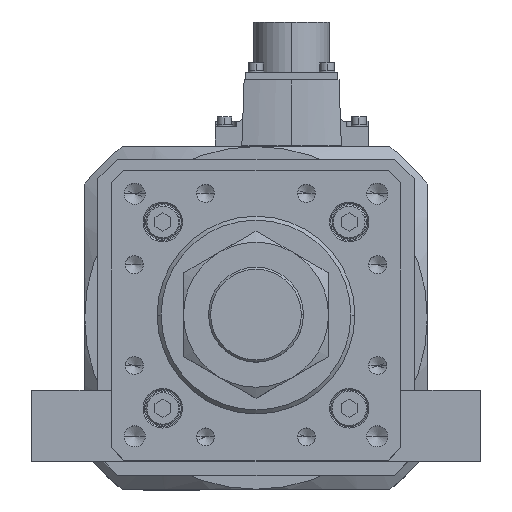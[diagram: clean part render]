
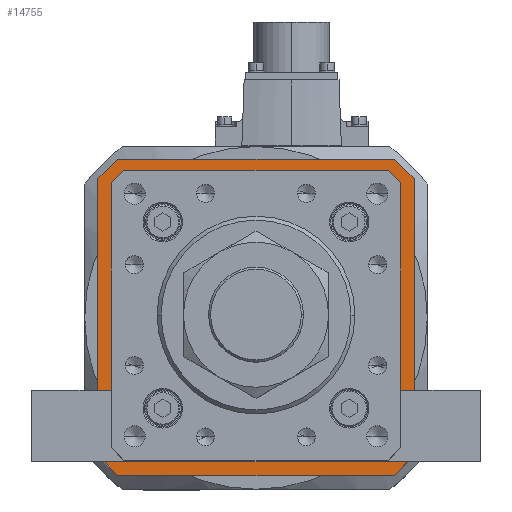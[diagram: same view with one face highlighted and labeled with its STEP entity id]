
A CAD part, top view. The second image highlights one B-rep face of the part: STEP entity #14755.
In plain terms, the highlighted planar face has unit normal (0, 0, 1).
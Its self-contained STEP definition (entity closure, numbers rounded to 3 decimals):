
#123 = EDGE_LOOP ( 'NONE', ( #26658, #15850, #24649, #28384, #15720, #22856, #2723, #34719 ) ) ;
#509 = LINE ( 'NONE', #13202, #11135 ) ;
#651 = FACE_OUTER_BOUND ( 'NONE', #123, .T. ) ;
#836 = VECTOR ( 'NONE', #4839, 1000. ) ;
#1059 = DIRECTION ( 'NONE',  ( 1., 0., 0. ) ) ;
#1314 = ORIENTED_EDGE ( 'NONE', *, *, #14884, .T. ) ;
#1342 = VECTOR ( 'NONE', #1059, 1000. ) ;
#1679 = CARTESIAN_POINT ( 'NONE',  ( -49.593, -53.5, -119. ) ) ;
#2389 = ORIENTED_EDGE ( 'NONE', *, *, #34062, .T. ) ;
#2723 = ORIENTED_EDGE ( 'NONE', *, *, #32309, .F. ) ;
#3587 = LINE ( 'NONE', #25033, #9563 ) ;
#3638 = VERTEX_POINT ( 'NONE', #21439 ) ;
#3651 = CARTESIAN_POINT ( 'NONE',  ( -53.5, 49.8, -119. ) ) ;
#3724 = VERTEX_POINT ( 'NONE', #15979 ) ;
#3873 = LINE ( 'NONE', #24553, #32558 ) ;
#4298 = CARTESIAN_POINT ( 'NONE',  ( -60., -52.5, -119. ) ) ;
#4336 = DIRECTION ( 'NONE',  ( 0.707, 0.707, 0. ) ) ;
#4839 = DIRECTION ( 'NONE',  ( 0.707, 0.707, 0. ) ) ;
#5247 = DIRECTION ( 'NONE',  ( 0., 0., 1. ) ) ;
#5585 = VECTOR ( 'NONE', #16885, 1000. ) ;
#5635 = CARTESIAN_POINT ( 'NONE',  ( 49.8, 53.5, -119. ) ) ;
#5797 = CARTESIAN_POINT ( 'NONE',  ( 60., 52.5, -119. ) ) ;
#6327 = VECTOR ( 'NONE', #6361, 1000. ) ;
#6361 = DIRECTION ( 'NONE',  ( 0., 1., 0. ) ) ;
#6394 = DIRECTION ( 'NONE',  ( 1., 0., 0. ) ) ;
#6497 = AXIS2_PLACEMENT_3D ( 'NONE', #32021, #5247, #17236 ) ;
#6675 = EDGE_CURVE ( 'NONE', #13339, #33547, #3587, .T. ) ;
#6880 = ORIENTED_EDGE ( 'NONE', *, *, #16070, .T. ) ;
#6944 = VERTEX_POINT ( 'NONE', #24484 ) ;
#6952 = EDGE_CURVE ( 'NONE', #17016, #11686, #15120, .T. ) ;
#6958 = DIRECTION ( 'NONE',  ( -1., 0., 0. ) ) ;
#7276 = CARTESIAN_POINT ( 'NONE',  ( -49.446, 53.646, -119. ) ) ;
#7765 = VECTOR ( 'NONE', #25791, 1000. ) ;
#8041 = LINE ( 'NONE', #26074, #27484 ) ;
#8065 = CARTESIAN_POINT ( 'NONE',  ( -60., 52.5, -119. ) ) ;
#8460 = FACE_BOUND ( 'NONE', #33612, .T. ) ;
#8485 = EDGE_CURVE ( 'NONE', #3638, #30688, #8041, .T. ) ;
#8662 = LINE ( 'NONE', #7276, #836 ) ;
#8741 = CARTESIAN_POINT ( 'NONE',  ( 49.593, -53.5, -119. ) ) ;
#8853 = DIRECTION ( 'NONE',  ( 0., -1., 0. ) ) ;
#9304 = LINE ( 'NONE', #19926, #28295 ) ;
#9520 = VECTOR ( 'NONE', #6958, 1000. ) ;
#9563 = VECTOR ( 'NONE', #4336, 1000. ) ;
#9617 = LINE ( 'NONE', #22785, #7765 ) ;
#10036 = LINE ( 'NONE', #14808, #37368 ) ;
#11135 = VECTOR ( 'NONE', #22272, 1000. ) ;
#11686 = VERTEX_POINT ( 'NONE', #24833 ) ;
#12745 = EDGE_CURVE ( 'NONE', #18184, #20924, #9617, .T. ) ;
#13093 = VERTEX_POINT ( 'NONE', #18868 ) ;
#13202 = CARTESIAN_POINT ( 'NONE',  ( -53.646, -49.446, -119. ) ) ;
#13339 = VERTEX_POINT ( 'NONE', #35029 ) ;
#14755 = ADVANCED_FACE ( 'NONE', ( #8460, #651 ), #29029, .T. ) ;
#14808 = CARTESIAN_POINT ( 'NONE',  ( 60., 52.5, -119. ) ) ;
#14884 = EDGE_CURVE ( 'NONE', #6944, #3638, #33039, .T. ) ;
#14976 = VECTOR ( 'NONE', #6394, 1000. ) ;
#15120 = LINE ( 'NONE', #3651, #6327 ) ;
#15168 = CARTESIAN_POINT ( 'NONE',  ( -53.5, -49.593, -119. ) ) ;
#15720 = ORIENTED_EDGE ( 'NONE', *, *, #20663, .F. ) ;
#15819 = CARTESIAN_POINT ( 'NONE',  ( 60., -52.5, -119. ) ) ;
#15850 = ORIENTED_EDGE ( 'NONE', *, *, #6675, .F. ) ;
#15979 = CARTESIAN_POINT ( 'NONE',  ( 53.5, -49.593, -119. ) ) ;
#16070 = EDGE_CURVE ( 'NONE', #30688, #3724, #3873, .T. ) ;
#16885 = DIRECTION ( 'NONE',  ( 0., 1., 0. ) ) ;
#17016 = VERTEX_POINT ( 'NONE', #15168 ) ;
#17236 = DIRECTION ( 'NONE',  ( 1., 0., 0. ) ) ;
#17254 = EDGE_CURVE ( 'NONE', #23684, #17016, #509, .T. ) ;
#17360 = ORIENTED_EDGE ( 'NONE', *, *, #8485, .T. ) ;
#17363 = DIRECTION ( 'NONE',  ( 0.707, -0.707, 0. ) ) ;
#18184 = VERTEX_POINT ( 'NONE', #15819 ) ;
#18867 = CARTESIAN_POINT ( 'NONE',  ( 52.5, -60., -119. ) ) ;
#18868 = CARTESIAN_POINT ( 'NONE',  ( 52.5, 60., -119. ) ) ;
#19369 = ORIENTED_EDGE ( 'NONE', *, *, #23156, .T. ) ;
#19926 = CARTESIAN_POINT ( 'NONE',  ( 49.446, -53.646, -119. ) ) ;
#20663 = EDGE_CURVE ( 'NONE', #20924, #32960, #21952, .T. ) ;
#20924 = VERTEX_POINT ( 'NONE', #18867 ) ;
#21439 = CARTESIAN_POINT ( 'NONE',  ( 49.593, 53.5, -119. ) ) ;
#21952 = LINE ( 'NONE', #29509, #22430 ) ;
#22272 = DIRECTION ( 'NONE',  ( -0.707, 0.707, 0. ) ) ;
#22387 = VERTEX_POINT ( 'NONE', #5797 ) ;
#22391 = VERTEX_POINT ( 'NONE', #8741 ) ;
#22430 = VECTOR ( 'NONE', #26044, 1000. ) ;
#22619 = LINE ( 'NONE', #29278, #25429 ) ;
#22785 = CARTESIAN_POINT ( 'NONE',  ( 60., -52.5, -119. ) ) ;
#22856 = ORIENTED_EDGE ( 'NONE', *, *, #12745, .F. ) ;
#23156 = EDGE_CURVE ( 'NONE', #3724, #22391, #9304, .T. ) ;
#23412 = LINE ( 'NONE', #23494, #34953 ) ;
#23494 = CARTESIAN_POINT ( 'NONE',  ( 60., 52.5, -119. ) ) ;
#23684 = VERTEX_POINT ( 'NONE', #1679 ) ;
#24147 = CARTESIAN_POINT ( 'NONE',  ( 52.5, 60., -119. ) ) ;
#24430 = EDGE_CURVE ( 'NONE', #32960, #24735, #22619, .T. ) ;
#24484 = CARTESIAN_POINT ( 'NONE',  ( -49.593, 53.5, -119. ) ) ;
#24553 = CARTESIAN_POINT ( 'NONE',  ( 53.5, -49.8, -119. ) ) ;
#24649 = ORIENTED_EDGE ( 'NONE', *, *, #30557, .F. ) ;
#24735 = VERTEX_POINT ( 'NONE', #4298 ) ;
#24833 = CARTESIAN_POINT ( 'NONE',  ( -53.5, 49.593, -119. ) ) ;
#24992 = EDGE_CURVE ( 'NONE', #33547, #13093, #33750, .T. ) ;
#25033 = CARTESIAN_POINT ( 'NONE',  ( -52.5, 60., -119. ) ) ;
#25429 = VECTOR ( 'NONE', #31882, 1000. ) ;
#25791 = DIRECTION ( 'NONE',  ( -0.707, -0.707, 0. ) ) ;
#26044 = DIRECTION ( 'NONE',  ( -1., 0., 0. ) ) ;
#26074 = CARTESIAN_POINT ( 'NONE',  ( 53.646, 49.446, -119. ) ) ;
#26114 = DIRECTION ( 'NONE',  ( 0.707, -0.707, 0. ) ) ;
#26658 = ORIENTED_EDGE ( 'NONE', *, *, #24992, .F. ) ;
#27265 = DIRECTION ( 'NONE',  ( 0., -1., 0. ) ) ;
#27484 = VECTOR ( 'NONE', #17363, 1000. ) ;
#28295 = VECTOR ( 'NONE', #31980, 1000. ) ;
#28384 = ORIENTED_EDGE ( 'NONE', *, *, #24430, .F. ) ;
#29029 = PLANE ( 'NONE',  #6497 ) ;
#29177 = LINE ( 'NONE', #8065, #5585 ) ;
#29190 = CARTESIAN_POINT ( 'NONE',  ( -52.5, 60., -119. ) ) ;
#29278 = CARTESIAN_POINT ( 'NONE',  ( -52.5, -60., -119. ) ) ;
#29509 = CARTESIAN_POINT ( 'NONE',  ( 52.5, -60., -119. ) ) ;
#29833 = ORIENTED_EDGE ( 'NONE', *, *, #33220, .T. ) ;
#30557 = EDGE_CURVE ( 'NONE', #24735, #13339, #29177, .T. ) ;
#30688 = VERTEX_POINT ( 'NONE', #36278 ) ;
#31837 = ORIENTED_EDGE ( 'NONE', *, *, #6952, .T. ) ;
#31882 = DIRECTION ( 'NONE',  ( -0.707, 0.707, 0. ) ) ;
#31980 = DIRECTION ( 'NONE',  ( -0.707, -0.707, 0. ) ) ;
#32021 = CARTESIAN_POINT ( 'NONE',  ( 0., 0., -119. ) ) ;
#32309 = EDGE_CURVE ( 'NONE', #22387, #18184, #10036, .T. ) ;
#32558 = VECTOR ( 'NONE', #27265, 1000. ) ;
#32722 = LINE ( 'NONE', #36328, #9520 ) ;
#32960 = VERTEX_POINT ( 'NONE', #36062 ) ;
#33039 = LINE ( 'NONE', #5635, #14976 ) ;
#33062 = ORIENTED_EDGE ( 'NONE', *, *, #17254, .T. ) ;
#33220 = EDGE_CURVE ( 'NONE', #22391, #23684, #32722, .T. ) ;
#33547 = VERTEX_POINT ( 'NONE', #29190 ) ;
#33563 = EDGE_CURVE ( 'NONE', #13093, #22387, #23412, .T. ) ;
#33612 = EDGE_LOOP ( 'NONE', ( #1314, #17360, #6880, #19369, #29833, #33062, #31837, #2389 ) ) ;
#33750 = LINE ( 'NONE', #24147, #1342 ) ;
#34062 = EDGE_CURVE ( 'NONE', #11686, #6944, #8662, .T. ) ;
#34719 = ORIENTED_EDGE ( 'NONE', *, *, #33563, .F. ) ;
#34953 = VECTOR ( 'NONE', #26114, 1000. ) ;
#35029 = CARTESIAN_POINT ( 'NONE',  ( -60., 52.5, -119. ) ) ;
#36062 = CARTESIAN_POINT ( 'NONE',  ( -52.5, -60., -119. ) ) ;
#36278 = CARTESIAN_POINT ( 'NONE',  ( 53.5, 49.593, -119. ) ) ;
#36328 = CARTESIAN_POINT ( 'NONE',  ( -49.8, -53.5, -119. ) ) ;
#37368 = VECTOR ( 'NONE', #8853, 1000. ) ;
